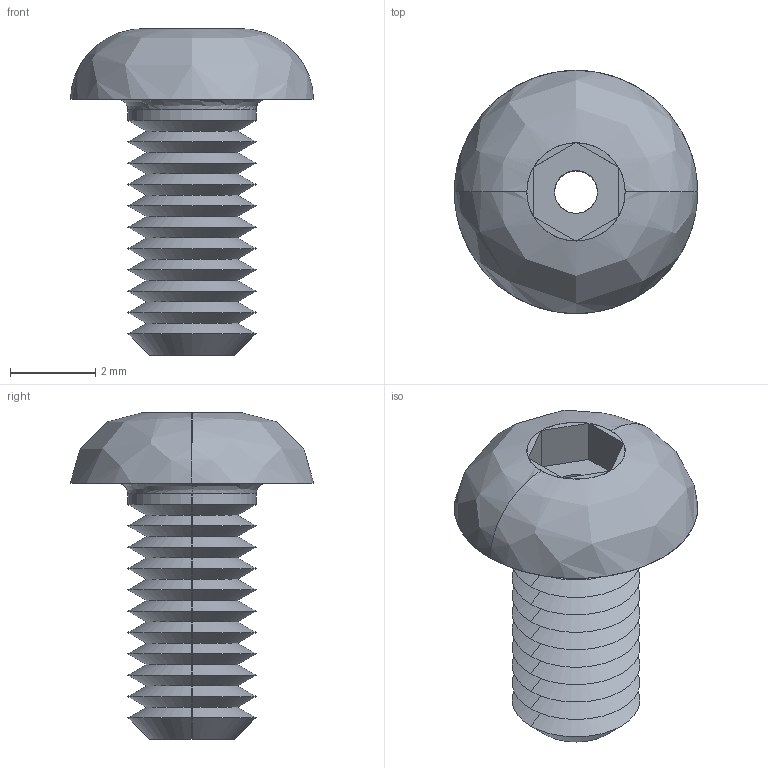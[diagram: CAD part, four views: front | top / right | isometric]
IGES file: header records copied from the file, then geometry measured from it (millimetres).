
Start section: SolidWorks IGES file using analytic representation for surfaces
Global section: file name: C:\Users\liam_\OneDrive\Documents\WORK\Work for WixRoyd\Job Files\J-00019 - Matt Davis CAD Checking\04. CAD Drawings\automotion20190605\P0094_v2\P0094_v2_20190712_IGES\P0094.030-006-A2.igs; native system: SolidWorks 2017; preprocessor: SolidWorks 2017; author: liam_; date: 190712.175114; units: millimetre
Bounding box: 5.7 x 5.7 x 7.65 mm (x, y, z)
Surface area: 178.6 mm2 (no closed solid volume)
Topology: 0 solids, 0 shells, 65 faces, 418 edges, 418 vertices
Faces by surface type: revolution 46, bspline 19
